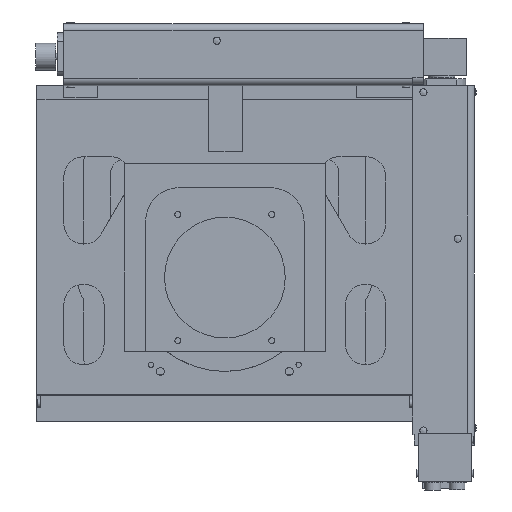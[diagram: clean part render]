
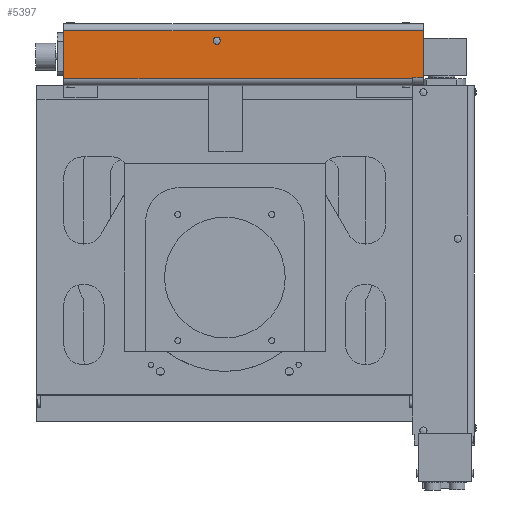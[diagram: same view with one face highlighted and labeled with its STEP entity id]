
A CAD part, front view. The second image highlights one B-rep face of the part: STEP entity #5397.
In plain terms, the highlighted planar face has unit normal (0, -1, 0).
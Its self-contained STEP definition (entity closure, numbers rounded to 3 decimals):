
#1638 = ORIENTED_EDGE ( 'NONE', *, *, #5110, .F. ) ;
#1639 = ORIENTED_EDGE ( 'NONE', *, *, #5111, .T. ) ;
#1640 = ORIENTED_EDGE ( 'NONE', *, *, #5112, .T. ) ;
#1641 = ORIENTED_EDGE ( 'NONE', *, *, #5113, .F. ) ;
#1642 = ORIENTED_EDGE ( 'NONE', *, *, #5114, .F. ) ;
#1643 = ORIENTED_EDGE ( 'NONE', *, *, #5115, .T. ) ;
#1644 = ORIENTED_EDGE ( 'NONE', *, *, #5081, .F. ) ;
#1645 = ORIENTED_EDGE ( 'NONE', *, *, #5003, .F. ) ;
#3147 = VERTEX_POINT ( 'NONE', #7138 ) ;
#3148 = VERTEX_POINT ( 'NONE', #7139 ) ;
#3197 = VERTEX_POINT ( 'NONE', #7188 ) ;
#3200 = VERTEX_POINT ( 'NONE', #7191 ) ;
#3201 = VERTEX_POINT ( 'NONE', #7192 ) ;
#3204 = VERTEX_POINT ( 'NONE', #7195 ) ;
#3208 = VERTEX_POINT ( 'NONE', #7199 ) ;
#3209 = VERTEX_POINT ( 'NONE', #7200 ) ;
#5003 = EDGE_CURVE ( 'NONE', #3147, #3148, #11760, .T. ) ;
#5081 = EDGE_CURVE ( 'NONE', #3148, #3147, #13071, .T. ) ;
#5110 = EDGE_CURVE ( 'NONE', #3200, #3197, #13288, .T. ) ;
#5111 = EDGE_CURVE ( 'NONE', #3200, #3208, #13293, .T. ) ;
#5112 = EDGE_CURVE ( 'NONE', #3208, #3209, #13287, .T. ) ;
#5113 = EDGE_CURVE ( 'NONE', #3204, #3209, #13299, .T. ) ;
#5114 = EDGE_CURVE ( 'NONE', #3201, #3204, #13286, .T. ) ;
#5115 = EDGE_CURVE ( 'NONE', #3201, #3197, #13294, .T. ) ;
#5397 = ADVANCED_FACE ( 'NONE', ( #14638, #14639 ), #14640, .T. ) ;
#7138 = CARTESIAN_POINT ( 'NONE',  ( -6., -22.5, 173.85 ) ) ;
#7139 = CARTESIAN_POINT ( 'NONE',  ( -6., -22.5, 179.15 ) ) ;
#7188 = CARTESIAN_POINT ( 'NONE',  ( 148., -22.5, 149. ) ) ;
#7191 = CARTESIAN_POINT ( 'NONE',  ( 148., -22.5, 184. ) ) ;
#7192 = CARTESIAN_POINT ( 'NONE',  ( 140., -22.5, 149. ) ) ;
#7195 = CARTESIAN_POINT ( 'NONE',  ( 140., -22.5, 148. ) ) ;
#7199 = CARTESIAN_POINT ( 'NONE',  ( -120., -22.5, 184. ) ) ;
#7200 = CARTESIAN_POINT ( 'NONE',  ( -120., -22.5, 148. ) ) ;
#11760 = CIRCLE ( 'NONE', #11770, 2.65 ) ;
#11770 = AXIS2_PLACEMENT_3D ( 'NONE', #12371, #12372, #12373 ) ;
#12371 = CARTESIAN_POINT ( 'NONE',  ( -6., -22.5, 176.5 ) ) ;
#12372 = DIRECTION ( 'NONE',  ( 0., -1., 0. ) ) ;
#12373 = DIRECTION ( 'NONE',  ( 0., 0., 1. ) ) ;
#12990 = CARTESIAN_POINT ( 'NONE',  ( -6., -22.5, 176.5 ) ) ;
#12991 = DIRECTION ( 'NONE',  ( 0., -1., 0. ) ) ;
#12992 = DIRECTION ( 'NONE',  ( 0., 0., 1. ) ) ;
#13071 = CIRCLE ( 'NONE', #13074, 2.65 ) ;
#13074 = AXIS2_PLACEMENT_3D ( 'NONE', #12990, #12991, #12992 ) ;
#13115 = VECTOR ( 'NONE', #13292, 1000. ) ;
#13116 = VECTOR ( 'NONE', #13298, 1000. ) ;
#13118 = VECTOR ( 'NONE', #13296, 1000. ) ;
#13119 = VECTOR ( 'NONE', #13303, 1000. ) ;
#13120 = VECTOR ( 'NONE', #13301, 1000. ) ;
#13121 = VECTOR ( 'NONE', #13305, 1000. ) ;
#13284 = CARTESIAN_POINT ( 'NONE',  ( 148., -22.5, 179. ) ) ;
#13286 = LINE ( 'NONE', #13302, #13119 ) ;
#13287 = LINE ( 'NONE', #13297, #13116 ) ;
#13288 = LINE ( 'NONE', #13284, #13115 ) ;
#13292 = DIRECTION ( 'NONE',  ( 0., 0., -1. ) ) ;
#13293 = LINE ( 'NONE', #13295, #13118 ) ;
#13294 = LINE ( 'NONE', #13304, #13121 ) ;
#13295 = CARTESIAN_POINT ( 'NONE',  ( 140., -22.5, 184. ) ) ;
#13296 = DIRECTION ( 'NONE',  ( -1., 0., 0. ) ) ;
#13297 = CARTESIAN_POINT ( 'NONE',  ( -120., -22.5, 184. ) ) ;
#13298 = DIRECTION ( 'NONE',  ( 0., 0., -1. ) ) ;
#13299 = LINE ( 'NONE', #13300, #13120 ) ;
#13300 = CARTESIAN_POINT ( 'NONE',  ( 140., -22.5, 148. ) ) ;
#13301 = DIRECTION ( 'NONE',  ( -1., 0., 0. ) ) ;
#13302 = CARTESIAN_POINT ( 'NONE',  ( 140., -22.5, 184. ) ) ;
#13303 = DIRECTION ( 'NONE',  ( 0., 0., -1. ) ) ;
#13304 = CARTESIAN_POINT ( 'NONE',  ( 140., -22.5, 149. ) ) ;
#13305 = DIRECTION ( 'NONE',  ( 1., 0., 0. ) ) ;
#14546 = AXIS2_PLACEMENT_3D ( 'NONE', #14631, #14642, #14643 ) ;
#14631 = CARTESIAN_POINT ( 'NONE',  ( 140., -22.5, 179. ) ) ;
#14638 = FACE_OUTER_BOUND ( 'NONE', #20139, .T. ) ;
#14639 = FACE_BOUND ( 'NONE', #20168, .T. ) ;
#14640 = PLANE ( 'NONE',  #14546 ) ;
#14642 = DIRECTION ( 'NONE',  ( 0., -1., 0. ) ) ;
#14643 = DIRECTION ( 'NONE',  ( 0., 0., -1. ) ) ;
#20139 = EDGE_LOOP ( 'NONE', ( #1638, #1639, #1640, #1641, #1642, #1643 ) ) ;
#20168 = EDGE_LOOP ( 'NONE', ( #1644, #1645 ) ) ;
